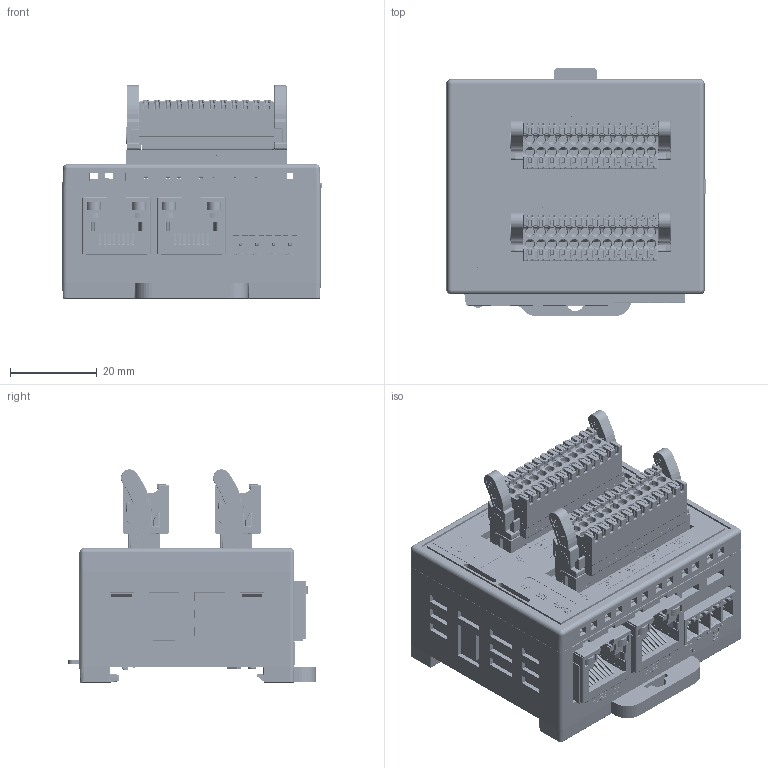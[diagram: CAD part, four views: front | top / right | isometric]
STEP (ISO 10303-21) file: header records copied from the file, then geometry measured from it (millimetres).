
FILE_DESCRIPTION((''),'2;1');
FILE_NAME('ECCBIF00-W','2026-05-27T14:27:06',('gijyu181'),(''),'CREO PARAMETRIC BY PTC INC, 2018050','CREO PARAMETRIC BY PTC INC, 2018050','');
FILE_SCHEMA(('CONFIG_CONTROL_DESIGN','SHAPE_APPEARANCE_LAYERS_GROUPS'));
Products named in the file (1): ECCBIF00-W
Bounding box: 59.75 x 57.15 x 49.14 mm (x, y, z)
Volume: 68252.5 mm3; surface area: 66300 mm2
Topology: 51 solids, 146 shells, 33810 faces, 93719 edges, 59391 vertices
Faces by surface type: plane 18867, cylinder 6395, bspline 5668, extrusion 1406, torus 578, cone 484, sphere 412
Entity records: 1686637 total; most frequent: CARTESIAN_POINT 544635, ORIENTED_EDGE 184186, DIRECTION 147110, EDGE_CURVE 93341, PRESENTATION_STYLE_ASSIGNMENT 84723, STYLED_ITEM 77749, CURVE_STYLE 68596, VECTOR 65464
